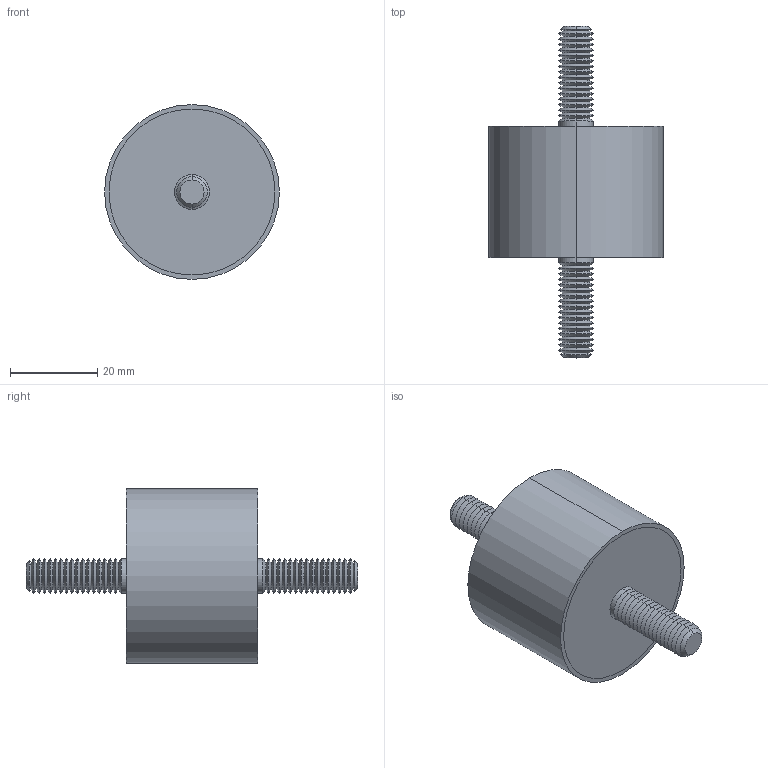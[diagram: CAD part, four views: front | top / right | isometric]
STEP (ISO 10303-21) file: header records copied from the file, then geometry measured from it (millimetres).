
FILE_DESCRIPTION (( 'STEP AP203' ), '1' );
FILE_NAME ('61040.W0405.step', '2019-09-24T22:35:39', ( '' ), ( '' ), 'SwSTEP 2.0', 'SolidWorks 2017', '' );
FILE_SCHEMA (( 'CONFIG_CONTROL_DESIGN' ));
Length unit declared in the file: millimetre
Products named in the file (4): Part1_61040.W0405; 61040.W0405; Part2_61040.W0405; Part3_61040.W0405
Assembly tree (3 placements, depth 2):
  61040.W0405
    Part1_61040.W0405
    Part2_61040.W0405
    Part3_61040.W0405
Bounding box: 40 x 76 x 40 mm (x, y, z)
Volume: 39458.8 mm3; surface area: 13171.4 mm2
Topology: 3 solids, 3 shells, 164 faces, 322 edges, 168 vertices
Faces by surface type: cone 140, cylinder 14, plane 10
Entity records: 4508 total; most frequent: DIRECTION 830, CARTESIAN_POINT 660, ORIENTED_EDGE 644, AXIS2_PLACEMENT_3D 338, EDGE_CURVE 322, VERTEX_POINT 168, EDGE_LOOP 168, CIRCLE 168
